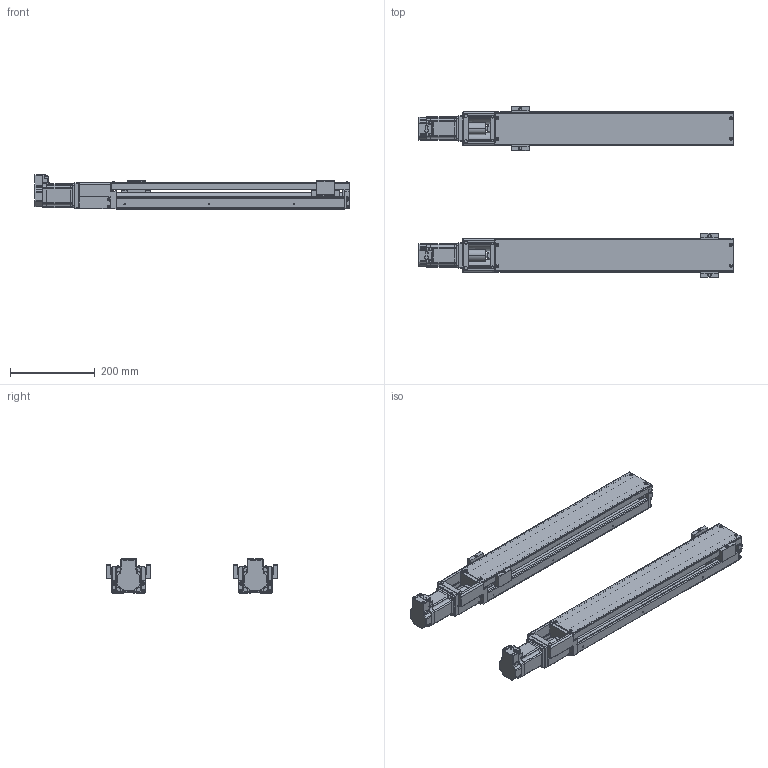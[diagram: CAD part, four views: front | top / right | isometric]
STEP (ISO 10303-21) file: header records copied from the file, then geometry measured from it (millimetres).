
FILE_DESCRIPTION(('STEP AP214'),'1');
FILE_NAME('D:\仕事\図面\SCKR6\tmp0.STEP',' ',(' '),(' '),'XStep 1.0',' ',' ');
FILE_SCHEMA(('automotive_design'));
Length unit declared in the file: millimetre
Bounding box: 745.01 x 404 x 82.36 mm (x, y, z)
Volume: 3553064.6 mm3; surface area: 928031.5 mm2
Topology: 116 solids, 116 shells, 4150 faces, 10188 edges, 6266 vertices
Faces by surface type: cylinder 1768, plane 1352, torus 720, bspline 186, cone 92, sphere 32
Entity records: 170319 total; most frequent: CARTESIAN_POINT 33412, DIRECTION 23166, ORIENTED_EDGE 20248, EDGE_CURVE 10124, AXIS2_PLACEMENT_3D 9124, VERTEX_POINT 6266, LINE 4918, VECTOR 4918
